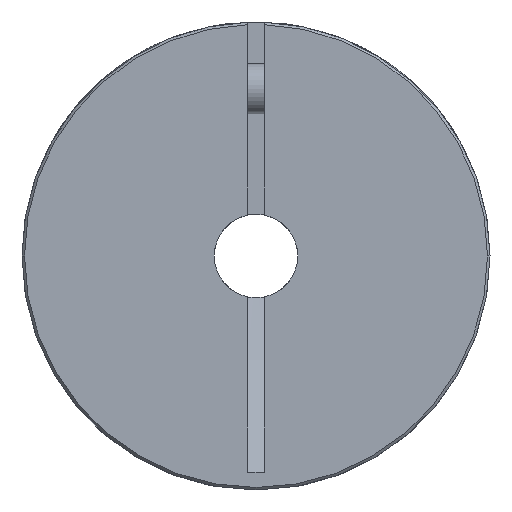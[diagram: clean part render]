
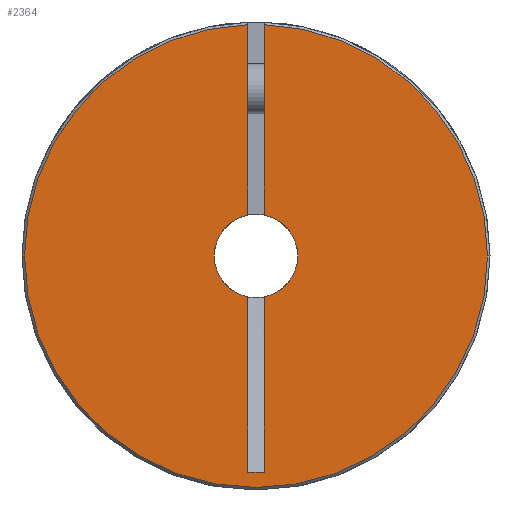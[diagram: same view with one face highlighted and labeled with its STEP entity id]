
A CAD part, left-side view. The second image highlights one B-rep face of the part: STEP entity #2364.
In plain terms, the highlighted planar face has unit normal (-1, 0, 0).
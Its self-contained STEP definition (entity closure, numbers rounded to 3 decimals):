
#11 = DIRECTION ( 'NONE',  ( -1., 0., 0. ) ) ;
#12 = DIRECTION ( 'NONE',  ( 0., -1., 0. ) ) ;
#44 = EDGE_CURVE ( 'NONE', #916, #2123, #2406, .T. ) ;
#47 = CIRCLE ( 'NONE', #1906, 27.7 ) ;
#61 = EDGE_CURVE ( 'NONE', #2284, #2123, #1074, .T. ) ;
#89 = EDGE_CURVE ( 'NONE', #1548, #2677, #282, .T. ) ;
#119 = CARTESIAN_POINT ( 'NONE',  ( 0., 0., 0. ) ) ;
#124 = CARTESIAN_POINT ( 'NONE',  ( 0., 1., 4.899 ) ) ;
#126 = CARTESIAN_POINT ( 'NONE',  ( 0., -5., 0. ) ) ;
#131 = VERTEX_POINT ( 'NONE', #124 ) ;
#161 = ORIENTED_EDGE ( 'NONE', *, *, #1992, .T. ) ;
#207 = DIRECTION ( 'NONE',  ( 0., -1., 0. ) ) ;
#231 = ORIENTED_EDGE ( 'NONE', *, *, #1327, .F. ) ;
#238 = AXIS2_PLACEMENT_3D ( 'NONE', #119, #2145, #2909 ) ;
#282 = CIRCLE ( 'NONE', #1445, 27.7 ) ;
#347 = EDGE_CURVE ( 'NONE', #686, #131, #3069, .T. ) ;
#357 = EDGE_LOOP ( 'NONE', ( #2385, #1647, #825, #161, #688, #577, #2899, #2500, #231, #809, #1840, #2425 ) ) ;
#422 = DIRECTION ( 'NONE',  ( -1., 0., 0. ) ) ;
#444 = AXIS2_PLACEMENT_3D ( 'NONE', #2402, #422, #207 ) ;
#457 = DIRECTION ( 'NONE',  ( 0., -1., 0. ) ) ;
#506 = DIRECTION ( 'NONE',  ( 0., -1., 0. ) ) ;
#534 = VERTEX_POINT ( 'NONE', #2930 ) ;
#543 = DIRECTION ( 'NONE',  ( 0., 0., -1. ) ) ;
#555 = CARTESIAN_POINT ( 'NONE',  ( 0., 0., 0. ) ) ;
#577 = ORIENTED_EDGE ( 'NONE', *, *, #44, .F. ) ;
#594 = DIRECTION ( 'NONE',  ( 0., 0., -1. ) ) ;
#632 = CARTESIAN_POINT ( 'NONE',  ( 0., -27.7, 0. ) ) ;
#686 = VERTEX_POINT ( 'NONE', #799 ) ;
#688 = ORIENTED_EDGE ( 'NONE', *, *, #61, .T. ) ;
#699 = CARTESIAN_POINT ( 'NONE',  ( 0., 0., 0. ) ) ;
#720 = DIRECTION ( 'NONE',  ( 0., -1., 0. ) ) ;
#769 = CIRCLE ( 'NONE', #1041, 5. ) ;
#799 = CARTESIAN_POINT ( 'NONE',  ( 0., 1., 27.682 ) ) ;
#809 = ORIENTED_EDGE ( 'NONE', *, *, #2698, .F. ) ;
#825 = ORIENTED_EDGE ( 'NONE', *, *, #89, .T. ) ;
#893 = DIRECTION ( 'NONE',  ( 0., 0., -1. ) ) ;
#916 = VERTEX_POINT ( 'NONE', #126 ) ;
#970 = CARTESIAN_POINT ( 'NONE',  ( 0., 1., -25.849 ) ) ;
#986 = AXIS2_PLACEMENT_3D ( 'NONE', #555, #1812, #3059 ) ;
#1031 = DIRECTION ( 'NONE',  ( 0., -1., 0. ) ) ;
#1041 = AXIS2_PLACEMENT_3D ( 'NONE', #699, #1716, #457 ) ;
#1073 = VERTEX_POINT ( 'NONE', #2033 ) ;
#1074 = LINE ( 'NONE', #1317, #1339 ) ;
#1088 = EDGE_CURVE ( 'NONE', #1073, #916, #2576, .T. ) ;
#1116 = EDGE_CURVE ( 'NONE', #131, #3223, #1508, .T. ) ;
#1206 = DIRECTION ( 'NONE',  ( -1., 0., 0. ) ) ;
#1317 = CARTESIAN_POINT ( 'NONE',  ( 0., -1., 0. ) ) ;
#1327 = EDGE_CURVE ( 'NONE', #3307, #1490, #2233, .T. ) ;
#1339 = VECTOR ( 'NONE', #1519, 1000. ) ;
#1409 = LINE ( 'NONE', #2646, #1791 ) ;
#1439 = CARTESIAN_POINT ( 'NONE',  ( 0., -1., 27.682 ) ) ;
#1445 = AXIS2_PLACEMENT_3D ( 'NONE', #2843, #11, #1031 ) ;
#1490 = VERTEX_POINT ( 'NONE', #2960 ) ;
#1508 = CIRCLE ( 'NONE', #1949, 5. ) ;
#1519 = DIRECTION ( 'NONE',  ( 0., 0., -1. ) ) ;
#1548 = VERTEX_POINT ( 'NONE', #1763 ) ;
#1647 = ORIENTED_EDGE ( 'NONE', *, *, #3001, .T. ) ;
#1716 = DIRECTION ( 'NONE',  ( -1., 0., 0. ) ) ;
#1763 = CARTESIAN_POINT ( 'NONE',  ( 0., 27.7, 0. ) ) ;
#1780 = CARTESIAN_POINT ( 'NONE',  ( 0., 0., 0. ) ) ;
#1791 = VECTOR ( 'NONE', #594, 1000. ) ;
#1804 = CARTESIAN_POINT ( 'NONE',  ( 0., 1., 0. ) ) ;
#1812 = DIRECTION ( 'NONE',  ( -1., 0., 0. ) ) ;
#1840 = ORIENTED_EDGE ( 'NONE', *, *, #2498, .F. ) ;
#1878 = FACE_OUTER_BOUND ( 'NONE', #357, .T. ) ;
#1906 = AXIS2_PLACEMENT_3D ( 'NONE', #2850, #3049, #2817 ) ;
#1949 = AXIS2_PLACEMENT_3D ( 'NONE', #2474, #1206, #12 ) ;
#1992 = EDGE_CURVE ( 'NONE', #2677, #2284, #2314, .T. ) ;
#2033 = CARTESIAN_POINT ( 'NONE',  ( 0., -1., -4.899 ) ) ;
#2100 = VECTOR ( 'NONE', #720, 1000. ) ;
#2123 = VERTEX_POINT ( 'NONE', #2995 ) ;
#2145 = DIRECTION ( 'NONE',  ( -1., 0., 0. ) ) ;
#2233 = LINE ( 'NONE', #3002, #2100 ) ;
#2284 = VERTEX_POINT ( 'NONE', #1439 ) ;
#2314 = CIRCLE ( 'NONE', #238, 27.7 ) ;
#2364 = ADVANCED_FACE ( 'NONE', ( #1878 ), #2390, .T. ) ;
#2385 = ORIENTED_EDGE ( 'NONE', *, *, #347, .F. ) ;
#2390 = PLANE ( 'NONE',  #444 ) ;
#2402 = CARTESIAN_POINT ( 'NONE',  ( 0., 0., 0. ) ) ;
#2406 = CIRCLE ( 'NONE', #986, 5. ) ;
#2425 = ORIENTED_EDGE ( 'NONE', *, *, #1116, .F. ) ;
#2474 = CARTESIAN_POINT ( 'NONE',  ( 0., 0., 0. ) ) ;
#2498 = EDGE_CURVE ( 'NONE', #3223, #534, #769, .T. ) ;
#2500 = ORIENTED_EDGE ( 'NONE', *, *, #2622, .T. ) ;
#2576 = CIRCLE ( 'NONE', #2665, 5. ) ;
#2622 = EDGE_CURVE ( 'NONE', #1073, #1490, #3155, .T. ) ;
#2646 = CARTESIAN_POINT ( 'NONE',  ( 0., 1., 0. ) ) ;
#2665 = AXIS2_PLACEMENT_3D ( 'NONE', #1780, #3256, #506 ) ;
#2674 = VECTOR ( 'NONE', #893, 1000. ) ;
#2677 = VERTEX_POINT ( 'NONE', #632 ) ;
#2698 = EDGE_CURVE ( 'NONE', #534, #3307, #1409, .T. ) ;
#2713 = VECTOR ( 'NONE', #543, 1000. ) ;
#2817 = DIRECTION ( 'NONE',  ( 0., -1., 0. ) ) ;
#2843 = CARTESIAN_POINT ( 'NONE',  ( 0., 0., 0. ) ) ;
#2850 = CARTESIAN_POINT ( 'NONE',  ( 0., 0., 0. ) ) ;
#2899 = ORIENTED_EDGE ( 'NONE', *, *, #1088, .F. ) ;
#2909 = DIRECTION ( 'NONE',  ( 0., -1., 0. ) ) ;
#2930 = CARTESIAN_POINT ( 'NONE',  ( 0., 1., -4.899 ) ) ;
#2960 = CARTESIAN_POINT ( 'NONE',  ( 0., -1., -25.849 ) ) ;
#2995 = CARTESIAN_POINT ( 'NONE',  ( 0., -1., 4.899 ) ) ;
#3001 = EDGE_CURVE ( 'NONE', #686, #1548, #47, .T. ) ;
#3002 = CARTESIAN_POINT ( 'NONE',  ( 0., -1., -25.849 ) ) ;
#3049 = DIRECTION ( 'NONE',  ( -1., 0., 0. ) ) ;
#3059 = DIRECTION ( 'NONE',  ( 0., -1., 0. ) ) ;
#3069 = LINE ( 'NONE', #1804, #2713 ) ;
#3152 = CARTESIAN_POINT ( 'NONE',  ( 0., 5., 0. ) ) ;
#3155 = LINE ( 'NONE', #3175, #2674 ) ;
#3175 = CARTESIAN_POINT ( 'NONE',  ( 0., -1., 0. ) ) ;
#3223 = VERTEX_POINT ( 'NONE', #3152 ) ;
#3256 = DIRECTION ( 'NONE',  ( -1., 0., 0. ) ) ;
#3307 = VERTEX_POINT ( 'NONE', #970 ) ;
